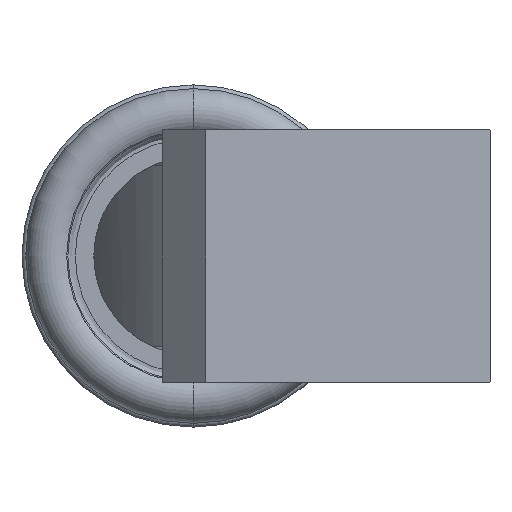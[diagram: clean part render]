
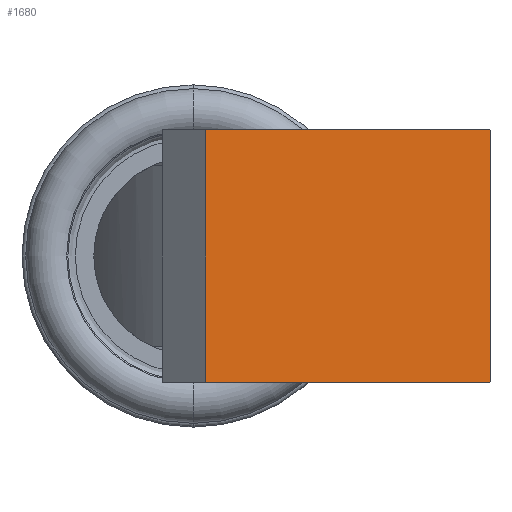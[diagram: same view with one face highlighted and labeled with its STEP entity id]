
A CAD part, left-side view. The second image highlights one B-rep face of the part: STEP entity #1680.
In plain terms, the highlighted planar face has unit normal (-0.998, -0.069, 0).
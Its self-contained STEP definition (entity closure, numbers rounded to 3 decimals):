
#62 = LINE ( 'NONE', #1887, #3104 ) ;
#113 = CARTESIAN_POINT ( 'NONE',  ( -138.719, -11.963, 5.088 ) ) ;
#122 = CARTESIAN_POINT ( 'NONE',  ( -139.516, -0.5, -5.1 ) ) ;
#162 = CARTESIAN_POINT ( 'NONE',  ( -138.719, -11.973, -15. ) ) ;
#272 = CARTESIAN_POINT ( 'NONE',  ( -138.719, -11.973, -5.065 ) ) ;
#286 = CARTESIAN_POINT ( 'NONE',  ( -139.516, -0.5, 5.1 ) ) ;
#306 = CARTESIAN_POINT ( 'NONE',  ( -138.88, -9.648, 5.1 ) ) ;
#411 = DIRECTION ( 'NONE',  ( -0.069, 0.998, 0. ) ) ;
#452 =( BOUNDED_CURVE ( )  B_SPLINE_CURVE ( 3, ( #2328, #2511, #1118, #2300 ),
 .UNSPECIFIED., .F., .T. ) 
 B_SPLINE_CURVE_WITH_KNOTS ( ( 4, 4 ),
 ( 5.88, 5.883 ),
 .UNSPECIFIED. ) 
 CURVE ( )  GEOMETRIC_REPRESENTATION_ITEM ( )  RATIONAL_B_SPLINE_CURVE ( ( 1., 1., 1., 1. ) ) 
 REPRESENTATION_ITEM ( '' )  );
#484 = ORIENTED_EDGE ( 'NONE', *, *, #2694, .T. ) ;
#530 = AXIS2_PLACEMENT_3D ( 'NONE', #1116, #2087, #411 ) ;
#540 = DIRECTION ( 'NONE',  ( -0.069, 0.998, 0. ) ) ;
#625 = PLANE ( 'NONE',  #530 ) ;
#637 = CARTESIAN_POINT ( 'NONE',  ( -138.72, -11.958, 5.1 ) ) ;
#684 = VECTOR ( 'NONE', #1179, 1000. ) ;
#747 = EDGE_CURVE ( 'NONE', #1705, #938, #1345, .T. ) ;
#922 = EDGE_CURVE ( 'NONE', #938, #2957, #2422, .T. ) ;
#938 = VERTEX_POINT ( 'NONE', #2727 ) ;
#1023 = ORIENTED_EDGE ( 'NONE', *, *, #922, .T. ) ;
#1024 = EDGE_CURVE ( 'NONE', #1413, #2404, #452, .T. ) ;
#1049 = LINE ( 'NONE', #162, #684 ) ;
#1091 = CARTESIAN_POINT ( 'NONE',  ( -138.719, -11.973, 5.065 ) ) ;
#1116 = CARTESIAN_POINT ( 'NONE',  ( -138.88, -9.648, -15. ) ) ;
#1118 = CARTESIAN_POINT ( 'NONE',  ( -138.719, -11.968, -5.077 ) ) ;
#1146 = EDGE_CURVE ( 'NONE', #1413, #2514, #62, .T. ) ;
#1167 = EDGE_CURVE ( 'NONE', #2514, #2957, #2223, .T. ) ;
#1179 = DIRECTION ( 'NONE',  ( 0., 0., 1. ) ) ;
#1345 =( BOUNDED_CURVE ( )  B_SPLINE_CURVE ( 3, ( #2037, #3052, #113, #637 ),
 .UNSPECIFIED., .F., .T. ) 
 B_SPLINE_CURVE_WITH_KNOTS ( ( 4, 4 ),
 ( 0.4, 0.403 ),
 .UNSPECIFIED. ) 
 CURVE ( )  GEOMETRIC_REPRESENTATION_ITEM ( )  RATIONAL_B_SPLINE_CURVE ( ( 1., 1., 1., 1. ) ) 
 REPRESENTATION_ITEM ( '' )  );
#1374 = ORIENTED_EDGE ( 'NONE', *, *, #1024, .T. ) ;
#1413 = VERTEX_POINT ( 'NONE', #2013 ) ;
#1466 = ORIENTED_EDGE ( 'NONE', *, *, #1167, .F. ) ;
#1562 = DIRECTION ( 'NONE',  ( 0., 0., 1. ) ) ;
#1602 = VECTOR ( 'NONE', #1562, 1000. ) ;
#1680 = ADVANCED_FACE ( 'NONE', ( #2726 ), #625, .F. ) ;
#1705 = VERTEX_POINT ( 'NONE', #1091 ) ;
#1707 = EDGE_LOOP ( 'NONE', ( #3068, #1374, #484, #3011, #1023, #1466 ) ) ;
#1887 = CARTESIAN_POINT ( 'NONE',  ( -138.88, -9.648, -5.1 ) ) ;
#2013 = CARTESIAN_POINT ( 'NONE',  ( -138.72, -11.958, -5.1 ) ) ;
#2037 = CARTESIAN_POINT ( 'NONE',  ( -138.719, -11.973, 5.065 ) ) ;
#2087 = DIRECTION ( 'NONE',  ( 0.998, 0.069, 0. ) ) ;
#2089 = DIRECTION ( 'NONE',  ( -0.069, 0.998, 0. ) ) ;
#2223 = LINE ( 'NONE', #2981, #1602 ) ;
#2300 = CARTESIAN_POINT ( 'NONE',  ( -138.719, -11.973, -5.065 ) ) ;
#2328 = CARTESIAN_POINT ( 'NONE',  ( -138.72, -11.958, -5.1 ) ) ;
#2404 = VERTEX_POINT ( 'NONE', #272 ) ;
#2422 = LINE ( 'NONE', #306, #3070 ) ;
#2511 = CARTESIAN_POINT ( 'NONE',  ( -138.719, -11.963, -5.088 ) ) ;
#2514 = VERTEX_POINT ( 'NONE', #122 ) ;
#2694 = EDGE_CURVE ( 'NONE', #2404, #1705, #1049, .T. ) ;
#2726 = FACE_OUTER_BOUND ( 'NONE', #1707, .T. ) ;
#2727 = CARTESIAN_POINT ( 'NONE',  ( -138.72, -11.958, 5.1 ) ) ;
#2957 = VERTEX_POINT ( 'NONE', #286 ) ;
#2981 = CARTESIAN_POINT ( 'NONE',  ( -139.516, -0.5, -15. ) ) ;
#3011 = ORIENTED_EDGE ( 'NONE', *, *, #747, .T. ) ;
#3052 = CARTESIAN_POINT ( 'NONE',  ( -138.719, -11.968, 5.077 ) ) ;
#3068 = ORIENTED_EDGE ( 'NONE', *, *, #1146, .F. ) ;
#3070 = VECTOR ( 'NONE', #540, 1000. ) ;
#3104 = VECTOR ( 'NONE', #2089, 1000. ) ;
